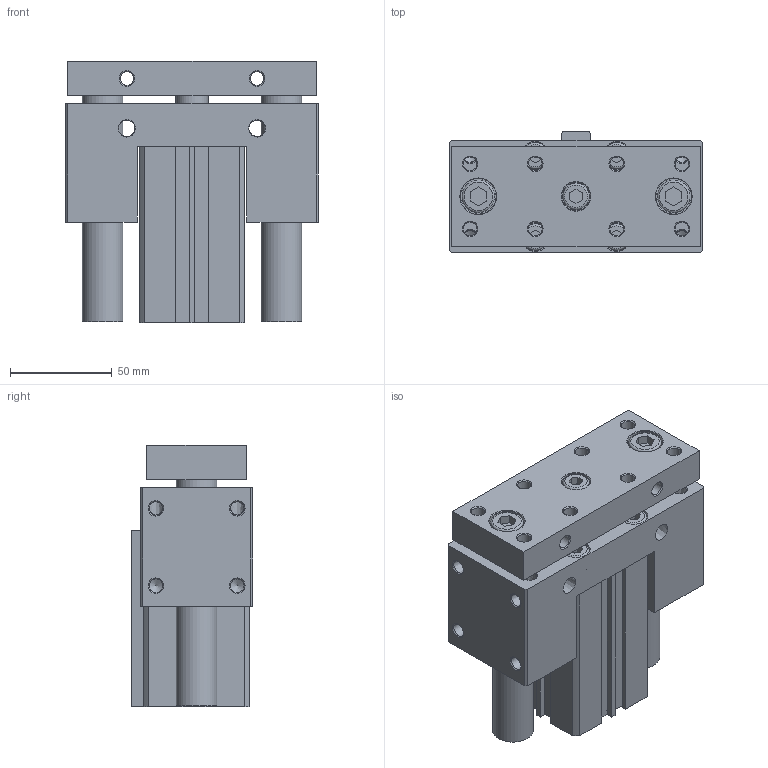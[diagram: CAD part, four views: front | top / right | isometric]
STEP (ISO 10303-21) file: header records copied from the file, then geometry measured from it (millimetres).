
FILE_DESCRIPTION((''),'2;1');
FILE_NAME('I:\3D電子目錄\氣缸\JCB\JCB\JCB40-S\JCB40x50-S.stp','2007-08-23T20:15:11',('Administrator'),(''),'Autodesk Inventor 11','Autodesk Inventor 11','');
FILE_SCHEMA(('AUTOMOTIVE_DESIGN { 1 0 10303 214 1 1 1 1 }'));
Length unit declared in the file: millimetre
Products named in the file (1): JCB40
Bounding box: 124 x 59.5 x 128.5 mm (x, y, z)
Volume: 588469.8 mm3; surface area: 127574.2 mm2
Topology: 3 solids, 3 shells, 303 faces, 731 edges, 473 vertices
Faces by surface type: plane 163, cylinder 52, cone 47, bspline 33, torus 8
Full cylindrical faces by diameter (mm): 2.2 x2, 6.647 x4, 6.8 x4, 10 x8, 13 x5, 14 x5, 16 x3, 17 x1, 17.5 x2, 20 x2, 23 x2, 28 x1, 29 x1, 42 x4, 44.5 x2
Entity records: 8528 total; most frequent: CARTESIAN_POINT 2090, DIRECTION 1302, ORIENTED_EDGE 1114, EDGE_CURVE 557, EDGE_LOOP 522, AXIS2_PLACEMENT_3D 480, VERTEX_POINT 435, VECTOR 342
